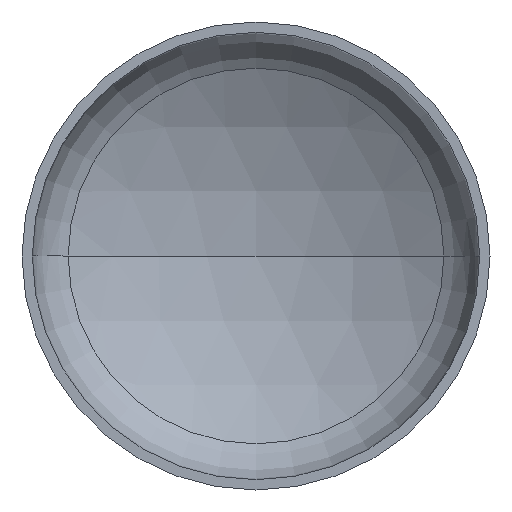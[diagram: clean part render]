
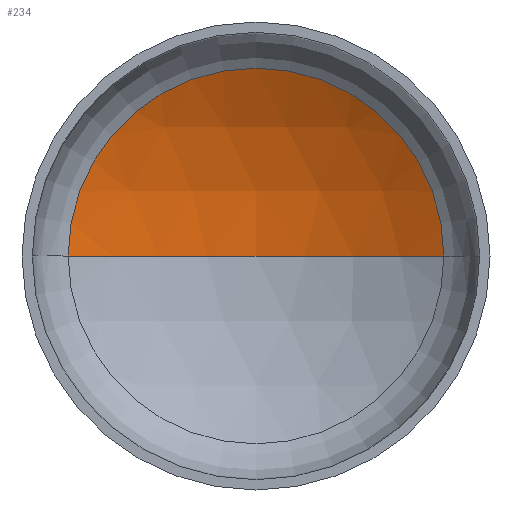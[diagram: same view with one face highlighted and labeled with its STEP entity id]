
A CAD part, front view. The second image highlights one B-rep face of the part: STEP entity #234.
In plain terms, the highlighted spherical face has radius 3200 mm.
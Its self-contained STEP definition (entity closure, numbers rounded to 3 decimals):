
#11 = VERTEX_POINT ( 'NONE', #397 ) ;
#20 = ORIENTED_EDGE ( 'NONE', *, *, #184, .T. ) ;
#26 = EDGE_LOOP ( 'NONE', ( #276, #66, #20 ) ) ;
#33 = DIRECTION ( 'NONE',  ( 1., 0., 0. ) ) ;
#40 = DIRECTION ( 'NONE',  ( 0., 0., 1. ) ) ;
#42 = AXIS2_PLACEMENT_3D ( 'NONE', #51, #248, #193 ) ;
#44 = CARTESIAN_POINT ( 'NONE',  ( 0., -2136.072, 0. ) ) ;
#46 = AXIS2_PLACEMENT_3D ( 'NONE', #44, #40, #33 ) ;
#47 = VERTEX_POINT ( 'NONE', #250 ) ;
#51 = CARTESIAN_POINT ( 'NONE',  ( 0., -2136.072, 0. ) ) ;
#52 = AXIS2_PLACEMENT_3D ( 'NONE', #244, #240, #187 ) ;
#54 = AXIS2_PLACEMENT_3D ( 'NONE', #217, #220, #272 ) ;
#66 = ORIENTED_EDGE ( 'NONE', *, *, #197, .T. ) ;
#108 = VERTEX_POINT ( 'NONE', #328 ) ;
#181 = SPHERICAL_SURFACE ( 'NONE', #42, 3200. ) ;
#184 = EDGE_CURVE ( 'NONE', #11, #47, #192, .T. ) ;
#187 = DIRECTION ( 'NONE',  ( -1., 0., 0. ) ) ;
#192 = CIRCLE ( 'NONE', #54, 1605.571 ) ;
#193 = DIRECTION ( 'NONE',  ( -1., 0., 0. ) ) ;
#197 = EDGE_CURVE ( 'NONE', #108, #11, #364, .T. ) ;
#202 = EDGE_CURVE ( 'NONE', #108, #47, #297, .T. ) ;
#217 = CARTESIAN_POINT ( 'NONE',  ( 0., 631.986, 0. ) ) ;
#220 = DIRECTION ( 'NONE',  ( 0., -1., 0. ) ) ;
#234 = ADVANCED_FACE ( 'NONE', ( #238 ), #181, .F. ) ;
#238 = FACE_OUTER_BOUND ( 'NONE', #26, .T. ) ;
#240 = DIRECTION ( 'NONE',  ( 0., 0., -1. ) ) ;
#244 = CARTESIAN_POINT ( 'NONE',  ( 0., -2136.072, 0. ) ) ;
#248 = DIRECTION ( 'NONE',  ( 0., 0., -1. ) ) ;
#250 = CARTESIAN_POINT ( 'NONE',  ( -1605.571, 631.986, 0. ) ) ;
#272 = DIRECTION ( 'NONE',  ( 1., 0., 0. ) ) ;
#276 = ORIENTED_EDGE ( 'NONE', *, *, #202, .F. ) ;
#297 = CIRCLE ( 'NONE', #46, 3200. ) ;
#328 = CARTESIAN_POINT ( 'NONE',  ( 0., 1063.928, 0. ) ) ;
#364 = CIRCLE ( 'NONE', #52, 3200. ) ;
#397 = CARTESIAN_POINT ( 'NONE',  ( 1605.571, 631.986, 0. ) ) ;
